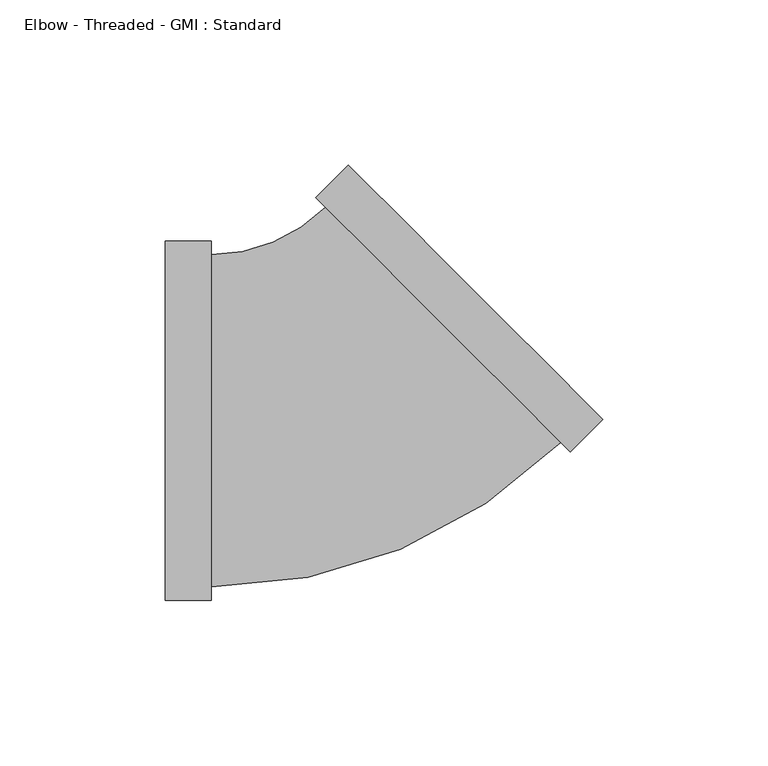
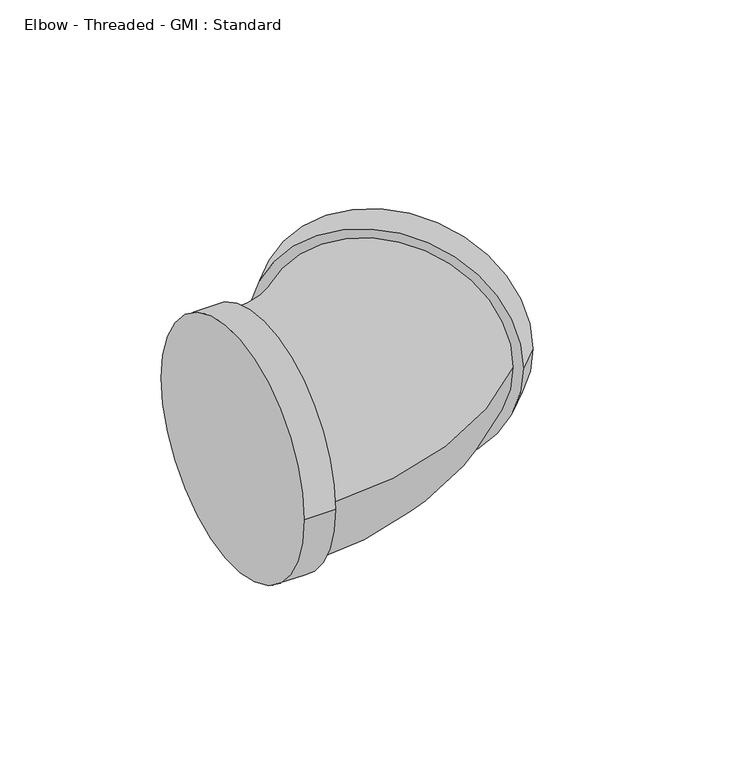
"""IFC4 building model written with IfcOpenShell, lengths in millimetres: pipe fitting geometry, Elbow - Threaded - GMI : Standard."""

import ifcopenshell
import ifcopenshell.guid

model = None  # the IFC model being written
_history = None  # IfcOwnerHistory: only IFC2X3 demands one
_inside = {}  # id of a spatial element -> (the spatial element, [elements in it])
_under = {}  # id of a project, library or spatial element -> (it, [spatial elements below it])
_declared = {}  # id of a project -> (the project, [libraries it declares])
_typed = {}  # id of a type object -> (the type object, [elements of that type])
_made_of = {}  # id of a material, layer set ... -> (it, [elements and type objects made of it])


def new_model(schema):
    """Start an empty IFC model of exactly this schema.

    Asked for "IFC4X3", IfcOpenShell would pick the latest addendum, in which some entities
    have other attributes; the version numbers below select the first issue.
    IFC2X3 requires an IfcOwnerHistory on every rooted entity: one is made here for all.
    """
    global model, _history
    if schema == "IFC4X3":
        model = ifcopenshell.file(schema_version=(4, 3, 0, 0))
    else:
        model = ifcopenshell.file(schema=schema)
    _inside.clear()
    _under.clear()
    _declared.clear()
    _typed.clear()
    _made_of.clear()
    _history = None
    if model.schema == "IFC2X3":
        org = make("IfcOrganization", Name="unknown")
        user = make(
            "IfcPersonAndOrganization",
            ThePerson=make("IfcPerson", FamilyName="unknown"),
            TheOrganization=org,
        )
        app = make(
            "IfcApplication",
            ApplicationDeveloper=org,
            Version="unknown",
            ApplicationFullName="unknown",
            ApplicationIdentifier="unknown",
        )
        _history = make(
            "IfcOwnerHistory",
            OwningUser=user,
            OwningApplication=app,
            ChangeAction="ADDED",
            CreationDate=0,
        )
    return model


def make(cls, **values):
    """One entity of the class cls with the attributes given. An attribute that is None is left unset."""
    return model.create_entity(
        cls, **{name: value for name, value in values.items() if value is not None}
    )


def rooted(cls, **values):
    """An entity with a GlobalId (a new one), such as an element, a storey or a relation."""
    return make(cls, GlobalId=ifcopenshell.guid.new(), OwnerHistory=_history, **values)


def si_unit(unit_type, name, prefix=None):
    """IfcSIUnit, for example si_unit("LENGTHUNIT", "METRE", prefix="MILLI")."""
    return make("IfcSIUnit", UnitType=unit_type, Prefix=prefix, Name=name)


def assignment(units):
    """IfcUnitAssignment: the units of a project."""
    return None if units is None else make("IfcUnitAssignment", Units=units)


def point(xyz):
    """IfcCartesianPoint."""
    return None if xyz is None else make("IfcCartesianPoint", Coordinates=xyz)


def direction(xyz):
    """IfcDirection."""
    return None if xyz is None else make("IfcDirection", DirectionRatios=xyz)


def frame(location, z_axis=None, x_axis=None):
    """IfcAxis2Placement3D, a coordinate frame: its origin and axes. An axis left out is left unset."""
    return make(
        "IfcAxis2Placement3D",
        Location=point(location),
        Axis=direction(z_axis),
        RefDirection=direction(x_axis),
    )


def origin():
    """The frame at (0, 0, 0) with its axes left unset."""
    return frame((0.0, 0.0, 0.0))


def place(relative_to, where):
    """IfcLocalPlacement: puts the frame where relative to a parent placement (None: the world)."""
    return make(
        "IfcLocalPlacement", PlacementRelTo=relative_to, RelativePlacement=where
    )


def context(
    kind, dimensions, precision=None, world=None, true_north=None, identifier=None
):
    """IfcGeometricRepresentationContext, for example the 3D "Model" context."""
    return make(
        "IfcGeometricRepresentationContext",
        ContextIdentifier=identifier,
        ContextType=kind,
        CoordinateSpaceDimension=dimensions,
        Precision=precision,
        WorldCoordinateSystem=world,
        TrueNorth=true_north,
    )


def project(units=None, contexts=None):
    """IfcProject with its units and contexts."""
    return rooted(
        "IfcProject",
        Name="project",
        RepresentationContexts=contexts,
        UnitsInContext=assignment(units),
    )


def spatial(cls, under=None, at=None, **own):
    """A site, building, storey or space (cls), placed at a placement, below another one or the project."""
    s = rooted(cls, ObjectPlacement=at, **own)
    if under is not None:
        _under.setdefault(under.id(), (under, []))[1].append(s)
    return s


def circle_curve(where, radius):
    """IfcCircle in the frame where."""
    return make("IfcCircle", Position=where, Radius=radius)


def ellipse_curve(where, semi_axis1, semi_axis2):
    """IfcEllipse in the frame where."""
    return make(
        "IfcEllipse", Position=where, SemiAxis1=semi_axis1, SemiAxis2=semi_axis2
    )


def trimmed(basis, trim1, trim2, sense, master):
    """IfcTrimmedCurve: the piece of a basis curve between two trims."""
    return make(
        "IfcTrimmedCurve",
        BasisCurve=basis,
        Trim1=trim1,
        Trim2=trim2,
        SenseAgreement=sense,
        MasterRepresentation=master,
    )


def shape(context_of_items, identifier, shape_type, items):
    """IfcShapeRepresentation: the items that make up one representation, for example the "Body"."""
    return make(
        "IfcShapeRepresentation",
        ContextOfItems=context_of_items,
        RepresentationIdentifier=identifier,
        RepresentationType=shape_type,
        Items=items,
    )


def source(mapping_origin, context_of_items, identifier, shape_type, items):
    """IfcRepresentationMap: a shape defined once, which mapped items show again and again."""
    return make(
        "IfcRepresentationMap",
        MappingOrigin=mapping_origin,
        MappedRepresentation=shape(context_of_items, identifier, shape_type, items),
    )


def transform(
    local_origin,
    x_axis=None,
    y_axis=None,
    z_axis=None,
    scale=None,
    scale2=None,
    scale3=None,
    uniform=True,
):
    """IfcCartesianTransformationOperator3D, or its non-uniform kind. x_axis, y_axis, z_axis: its Axis1, 2, 3."""
    if uniform:
        return make(
            "IfcCartesianTransformationOperator3D",
            Axis1=direction(x_axis),
            Axis2=direction(y_axis),
            LocalOrigin=point(local_origin),
            Scale=scale,
            Axis3=direction(z_axis),
        )
    return make(
        "IfcCartesianTransformationOperator3DnonUniform",
        Axis1=direction(x_axis),
        Axis2=direction(y_axis),
        LocalOrigin=point(local_origin),
        Scale=scale,
        Axis3=direction(z_axis),
        Scale2=scale2,
        Scale3=scale3,
    )


def mapped(mapping_source, mapping_target):
    """IfcMappedItem: shows the shape of a source again, moved by a transform."""
    return make(
        "IfcMappedItem", MappingSource=mapping_source, MappingTarget=mapping_target
    )


def made_of(thing, what):
    """Note that an element or type object is made of a material, layer set ...; save() writes the relation."""
    if what is not None:
        _made_of.setdefault(what.id(), (what, []))[1].append(thing)
    return thing


def element(
    cls,
    number,
    at=None,
    inside=None,
    cuts=None,
    type_object=None,
    material=None,
    context=None,
    identifier="Body",
    shape_type=None,
    held_by="IfcProductDefinitionShape",
    body=None,
    shapes=None,
    **own,
):
    """One element of the class cls, such as IfcWall. Its Tag is "e" and its number.

    at: its placement. inside: the storey or other place that contains it. cuts: it is an
    opening in that element (IfcRelVoidsElement). A single representation is given by context,
    identifier, shape_type and body (its items); several are given by shapes. held_by: the class
    of the entity that holds the representations. save() writes the other relations.
    """
    e = rooted(cls, Tag="e%d" % number, ObjectPlacement=at, **own)
    if body is not None:
        shapes = [shape(context, identifier, shape_type, body)]
    if shapes is not None:
        e.Representation = make(held_by, Representations=shapes)
    if inside is not None:
        _inside.setdefault(inside.id(), (inside, []))[1].append(e)
    if cuts is not None:
        rooted(
            "IfcRelVoidsElement", RelatingBuildingElement=cuts, RelatedOpeningElement=e
        )
    if type_object is not None:
        _typed.setdefault(type_object.id(), (type_object, []))[1].append(e)
    return made_of(e, material)


def aggregate(whole, parts):
    """IfcRelAggregates: a whole, such as a stair, and the parts it consists of."""
    return rooted("IfcRelAggregates", RelatingObject=whole, RelatedObjects=parts)


def save(model, path):
    """Write the relations noted so far, then the file.

    IfcRelAggregates (storeys below a building ...), IfcRelContainedInSpatialStructure (elements
    in a storey), IfcRelDefinesByType, IfcRelAssociatesMaterial and IfcRelDeclares: one each for
    every whole, place, type object, material and project.
    """
    for whole, parts in _under.values():
        aggregate(whole, parts)
    for where, things in _inside.values():
        rooted(
            "IfcRelContainedInSpatialStructure",
            RelatedElements=things,
            RelatingStructure=where,
        )
    for kind, things in _typed.values():
        rooted("IfcRelDefinesByType", RelatedObjects=things, RelatingType=kind)
    for what, things in _made_of.values():
        rooted("IfcRelAssociatesMaterial", RelatedObjects=things, RelatingMaterial=what)
    for by, libraries in _declared.values():
        rooted("IfcRelDeclares", RelatingContext=by, RelatedDefinitions=libraries)
    model.write(path)


def plane_surface(at):
    """IfcPlane: the flat surface through the origin of the frame at, square to its z axis."""
    return make("IfcPlane", Position=at)


def cylinder_surface(at, radius):
    """IfcCylindricalSurface: all points at the distance radius from the z axis of the frame at."""
    return make("IfcCylindricalSurface", Position=at, Radius=radius)


def revolved_surface(curve, axis_point, axis_direction):
    """IfcSurfaceOfRevolution: the curve turned about the line through axis_point along axis_direction."""
    return make(
        "IfcSurfaceOfRevolution",
        SweptCurve=make("IfcArbitraryOpenProfileDef", ProfileType="CURVE", Curve=curve),
        AxisPosition=make("IfcAxis1Placement", Location=point(axis_point), Axis=direction(axis_direction)),
    )


def advanced_brep(points, edges, surfaces, faces):
    """IfcAdvancedBrep: a solid bounded by faces that lie on surfaces and meet in shared edges.

    An edge is (start, end): straight between two places in points (the first is 0);
    or (start, end, curve); or (start, end, curve, False) where it runs against its curve.
    A face is (place in surfaces, loops), or (place, loops, False) where it looks against
    its surface's normal. A loop lists edges by number (the first is 1), with a minus sign
    where the edge is run from its end to its start. The first loop is the outer one.
    """
    corners = [point(p) for p in points]
    vertices = [make("IfcVertexPoint", VertexGeometry=c) for c in corners]
    made = []
    for start, end, *more in edges:
        made.append(
            make(
                "IfcEdgeCurve",
                EdgeStart=vertices[start],
                EdgeEnd=vertices[end],
                EdgeGeometry=more[0] if more else make("IfcPolyline", Points=[corners[start], corners[end]]),
                SameSense=more[1] if len(more) > 1 else True,
            )
        )
    hull = []
    for where, loops, *sense in faces:
        bounds = []
        for j, loop in enumerate(loops):
            ring = [make("IfcOrientedEdge", EdgeElement=made[abs(k) - 1], Orientation=k > 0) for k in loop]
            bounds.append(
                make(
                    "IfcFaceOuterBound" if j == 0 else "IfcFaceBound",
                    Bound=make("IfcEdgeLoop", EdgeList=ring),
                    Orientation=True,
                )
            )
        hull.append(make("IfcAdvancedFace", Bounds=bounds, FaceSurface=surfaces[where], SameSense=sense[0] if sense else True))
    return make("IfcAdvancedBrep", Outer=make("IfcClosedShell", CfsFaces=hull))


def elbow_threaded_gmi_standard_bbcb431e(model_context):
    return source(origin(), model_context, "Body", "AdvancedBrep", [
        advanced_brep(
        [(-55.0, -54.4, 0.0), (-55.0, 54.4, 0.0), (-41.1, -54.4, 0.0), (-41.1, 54.4, 0.0), (-41.1, -50.32, 0.0), (-41.1, 50.32, 0.0), (67.5286976, -9.4045202, 0.0), (-9.4045202, 67.5286976, 0.0), (-6.5195245, 64.6437019, 0.0), (64.6437019, -6.5195245, 0.0), (77.3574819, 0.4242641, 0.0), (0.4242641, 77.3574819, 0.0)],
        [
            (0, 1, circle_curve(frame((-55.0, 0.0, 0.0), z_axis=(-1.0, 0.0, 0.0), x_axis=(0.0, 1.0, 0.0)), 54.4)),
            (1, 0, circle_curve(frame((-55.0, 0.0, 0.0), z_axis=(-1.0, 0.0, 0.0), x_axis=(0.0, 1.0, 0.0)), 54.4)),
            (2, 3, circle_curve(frame((-41.1, 0.0, 0.0), z_axis=(1.0, 0.0, 0.0), x_axis=(0.0, 1.0, 0.0)), 54.4)),
            (3, 2, circle_curve(frame((-41.1, 0.0, 0.0), z_axis=(1.0, 0.0, 0.0), x_axis=(0.0, 1.0, 0.0)), 54.4)),
            (4, 5, circle_curve(frame((-41.1, 0.0, 0.0), z_axis=(-1.0, 0.0, 0.0), x_axis=(0.0, 1.0, 0.0)), 50.32)),
            (5, 4, circle_curve(frame((-41.1, 0.0, 0.0), z_axis=(-1.0, 0.0, 0.0), x_axis=(0.0, 1.0, 0.0)), 50.32)),
            (0, 2),
            (3, 1),
            (6, 7, circle_curve(frame((29.0620887, 29.0620887, 0.0), z_axis=(-0.7071067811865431, -0.7071067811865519, 0.0), x_axis=(-0.7071067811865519, 0.7071067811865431, 0.0)), 54.4)),
            (7, 6, circle_curve(frame((29.0620887, 29.0620887, 0.0), z_axis=(-0.7071067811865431, -0.7071067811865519, 0.0), x_axis=(-0.7071067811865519, 0.7071067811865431, 0.0)), 54.4)),
            (8, 9, circle_curve(frame((29.0620887, 29.0620887, 0.0), z_axis=(0.7071067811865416, 0.7071067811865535, 0.0), x_axis=(-0.7071067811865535, 0.7071067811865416, 0.0)), 50.32)),
            (9, 8, circle_curve(frame((29.0620887, 29.0620887, 0.0), z_axis=(0.7071067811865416, 0.7071067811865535, 0.0), x_axis=(-0.7071067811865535, 0.7071067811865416, 0.0)), 50.32)),
            (10, 11, circle_curve(frame((38.890873, 38.890873, 0.0), z_axis=(0.7071067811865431, 0.7071067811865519, 0.0), x_axis=(-0.7071067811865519, 0.7071067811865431, 0.0)), 54.4)),
            (11, 10, circle_curve(frame((38.890873, 38.890873, 0.0), z_axis=(0.7071067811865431, 0.7071067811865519, 0.0), x_axis=(-0.7071067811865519, 0.7071067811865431, 0.0)), 54.4)),
            (6, 10),
            (11, 7),
            (8, 5, circle_curve(frame((-41.1, 99.2241774, 0.0), z_axis=(0.0, 0.0, -1.0), x_axis=(0.0, -1.0, 0.0)), 48.9041774)),
            (4, 9, circle_curve(frame((-41.1, 99.2241774, 0.0), z_axis=(0.0, 0.0, 1.0), x_axis=(0.0, -1.0, 0.0)), 149.5441774)),
        ],
        [
            plane_surface(frame((-55.0, 0.0, 0.0), z_axis=(-1.0, 0.0, 0.0), x_axis=(0.0, 0.0, 1.0))),
            plane_surface(frame((-41.1, 0.0, 0.0), z_axis=(1.0, 0.0, 0.0), x_axis=(0.0, 0.0, 1.0))),
            cylinder_surface(frame((-55.0, 0.0, 0.0), z_axis=(-1.0, 0.0, 0.0), x_axis=(0.0, 1.0, 0.0)), 54.4),
            plane_surface(frame((29.0620887, 29.0620887, 0.0), z_axis=(-0.7071067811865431, -0.7071067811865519, 0.0), x_axis=(0.0, 0.0, 1.0))),
            plane_surface(frame((38.890873, 38.890873, 0.0), z_axis=(0.7071067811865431, 0.7071067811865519, 0.0), x_axis=(0.0, 0.0, 1.0))),
            cylinder_surface(frame((29.0620887, 29.0620887, 0.0), z_axis=(-0.7071067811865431, -0.7071067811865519, 0.0), x_axis=(-0.7071067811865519, 0.7071067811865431, 0.0)), 54.4),
            revolved_surface(trimmed(ellipse_curve(frame((-41.1, 0.0, 0.0), z_axis=(-1.0, 0.0, 0.0), x_axis=(0.0, 1.0, 0.0)), 50.32, 50.32), [point((-41.1, -50.32, 0.0))], [point((-41.1, 50.32, 0.0))], True, "CARTESIAN"), (-41.1, 99.2241774, 0.0), (0.0, 0.0, 1.0)),
            revolved_surface(trimmed(ellipse_curve(frame((-41.1, 0.0, 0.0), z_axis=(-1.0, 0.0, 0.0), x_axis=(0.0, 1.0, 0.0)), 50.32, 50.32), [point((-41.1, 50.32, 0.0))], [point((-41.1, -50.32, 0.0))], True, "CARTESIAN"), (-41.1, 99.2241774, 0.0), (0.0, 0.0, 1.0)),
        ],
        [
            (0, [[1, 2]]),
            (1, [[3, 4], [5, 6]]),
            (2, [[-1, 7, -4, 8]]),
            (2, [[-2, -8, -3, -7]]),
            (3, [[9, 10], [11, 12]]),
            (4, [[13, 14]]),
            (5, [[-9, 15, -14, 16]]),
            (5, [[-10, -16, -13, -15]]),
            (6, [[17, -5, 18, -11]]),
            (7, [[-17, -12, -18, -6]]),
        ],
    ),
    ])


if __name__ == "__main__":
    model = new_model("IFC4")
    model_context = context("Model", 3, world=origin())
    ifc_project = project(units=[si_unit("LENGTHUNIT", "METRE", prefix="MILLI")], contexts=[model_context])
    site = spatial("IfcSite", under=ifc_project)
    building = spatial("IfcBuilding", under=site)
    placement = place(None, origin())
    elbow_threaded_gmi_standard_shape = elbow_threaded_gmi_standard_bbcb431e(model_context)
    element("IfcPipeFitting", 1, ObjectType="Elbow - Threaded - GMI : Standard", at=placement, inside=building, context=model_context, shape_type="MappedRepresentation", body=[
        mapped(elbow_threaded_gmi_standard_shape, transform((0.0, 0.0, 0.0), x_axis=(1.0, 0.0, 0.0), y_axis=(0.0, 1.0, 0.0), z_axis=(0.0, 0.0, 1.0))),
    ])
    save(model, "model.ifc")
